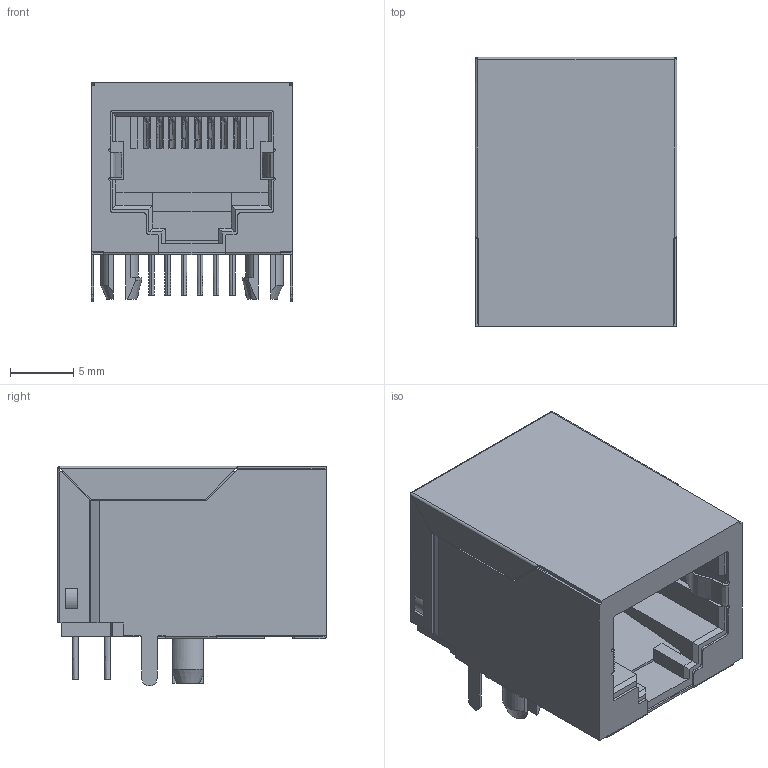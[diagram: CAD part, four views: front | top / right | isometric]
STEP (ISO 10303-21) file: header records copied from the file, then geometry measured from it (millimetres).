
FILE_DESCRIPTION((''),'2;1');
FILE_NAME('PRT0004_1_ASM_1_ASM','2020-07-22T11:30:02',('Administrator'),(''),'CREO PARAMETRIC BY PTC INC, 2018400','CREO PARAMETRIC BY PTC INC, 2018400','');
FILE_SCHEMA(('CONFIG_CONTROL_DESIGN'));
Products named in the file (8): PRT0004_1_1_1; PRT0004_1_2_1; PRT0004_1_3_1; PRT0004_1_4_1; PRT0004_1_5_1; PRT0004_1_6_1; PRT0004_1_7_1; PRT0004_1_ASM_1_ASM
Assembly tree (7 placements, depth 2):
  PRT0004_1_ASM_1_ASM
    PRT0004_1_1_1
    PRT0004_1_2_1
    PRT0004_1_3_1
    PRT0004_1_4_1
    PRT0004_1_5_1
    PRT0004_1_6_1
    PRT0004_1_7_1
Bounding box: 15.9 x 21.2 x 17.3 mm (x, y, z)
Volume: 2642.9 mm3; surface area: 6651.2 mm2
Topology: 7 solids, 7 shells, 611 faces, 1825 edges, 1184 vertices
Faces by surface type: plane 444, cylinder 123, cone 24, bspline 16, extrusion 4
Entity records: 52236 total; most frequent: CARTESIAN_POINT 35598, ORIENTED_EDGE 3650, DIRECTION 3213, EDGE_CURVE 1825, VECTOR 1321, LINE 1317, VERTEX_POINT 1184, AXIS2_PLACEMENT_3D 946
